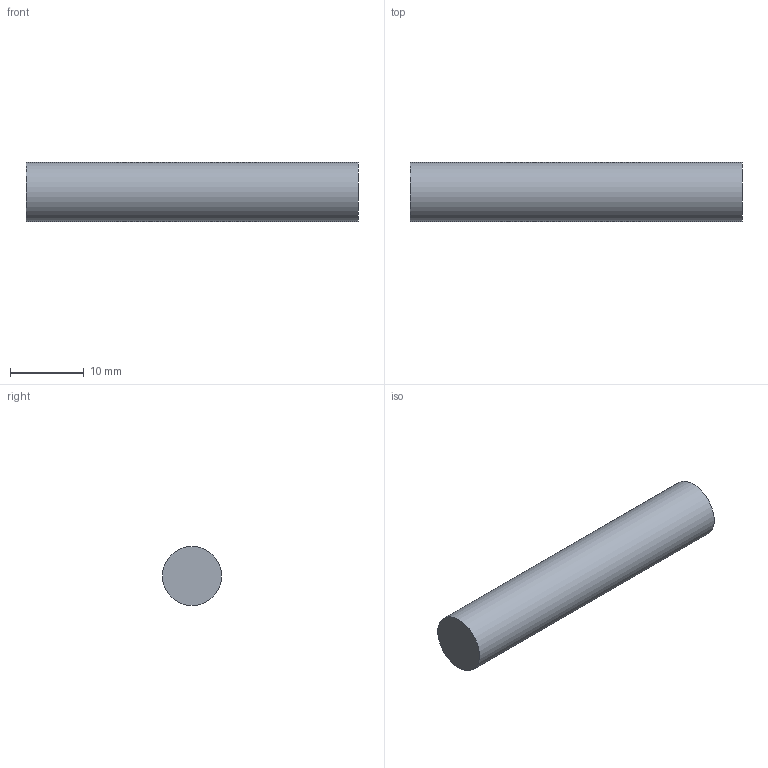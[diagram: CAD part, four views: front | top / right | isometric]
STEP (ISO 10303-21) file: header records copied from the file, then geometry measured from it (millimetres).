
FILE_DESCRIPTION(('Open CASCADE Model'),'2;1');
FILE_NAME('Open CASCADE Shape Model','2026-10-06T19:56:11',('Author'),( 'Open CASCADE'),'Open CASCADE STEP processor 7.9','Open CASCADE 7.9' ,'Unknown');
FILE_SCHEMA(('AUTOMOTIVE_DESIGN { 1 0 10303 214 1 1 1 1 }'));
Length unit declared in the file: millimetre
Products named in the file (1): Open CASCADE STEP translator 7.9 49
Bounding box: 45 x 8 x 8 mm (x, y, z)
Volume: 2261.9 mm3; surface area: 1231.5 mm2
Topology: 1 solids, 1 shells, 3 faces, 3 edges, 2 vertices
Faces by surface type: plane 2, cylinder 1
Full cylindrical faces by diameter (mm): 8 x1
Entity records: 108 total; most frequent: DIRECTION 19, CARTESIAN_POINT 15, AXIS2_PLACEMENT_3D 6, ORIENTED_EDGE 6, PCURVE 6, DEFINITIONAL_REPRESENTATION 6, LINE 5, VECTOR 5
